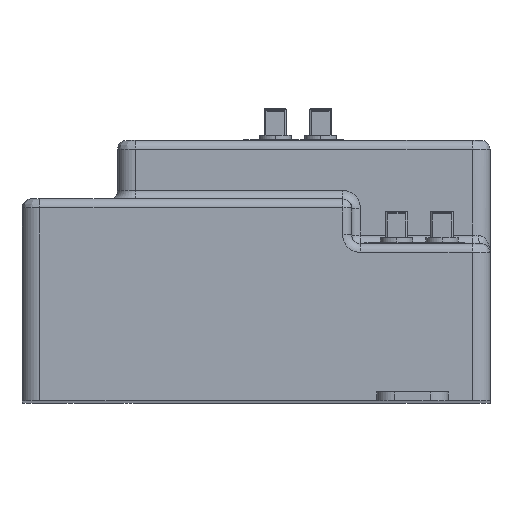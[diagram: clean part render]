
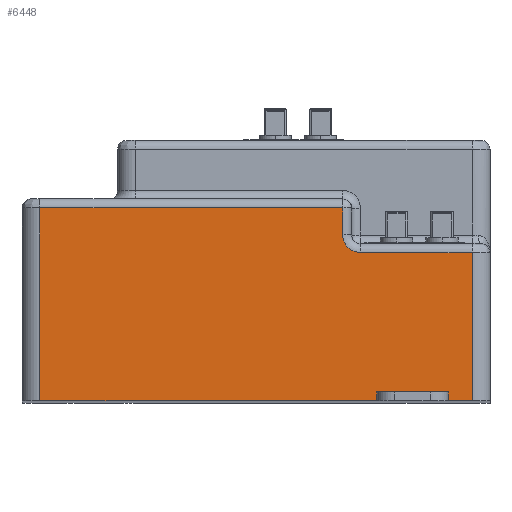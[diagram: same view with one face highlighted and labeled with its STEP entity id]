
A CAD part, top view. The second image highlights one B-rep face of the part: STEP entity #6448.
In plain terms, the highlighted planar face has unit normal (0, 0, 1).
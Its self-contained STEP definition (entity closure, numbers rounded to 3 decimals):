
#1053=FACE_OUTER_BOUND('',#17804,.T.);
#6448=ADVANCED_FACE('',(#1053),#12078,.F.);
#12078=PLANE('',#106638);
#17804=EDGE_LOOP('',(#25285,#25286,#25287,#25288,#25289,#25290,#25291,#25292,
#25293,#25294,#25295,#25296,#25297,#25298,#25299));
#23995=CIRCLE('',#106637,2.);
#25285=ORIENTED_EDGE('',*,*,#64652,.F.);
#25286=ORIENTED_EDGE('',*,*,#64653,.T.);
#25287=ORIENTED_EDGE('',*,*,#64654,.T.);
#25288=ORIENTED_EDGE('',*,*,#64626,.F.);
#25289=ORIENTED_EDGE('',*,*,#64655,.T.);
#25290=ORIENTED_EDGE('',*,*,#64583,.F.);
#25291=ORIENTED_EDGE('',*,*,#64656,.T.);
#25292=ORIENTED_EDGE('',*,*,#64657,.T.);
#25293=ORIENTED_EDGE('',*,*,#64658,.T.);
#25294=ORIENTED_EDGE('',*,*,#64594,.F.);
#25295=ORIENTED_EDGE('',*,*,#64659,.T.);
#25296=ORIENTED_EDGE('',*,*,#64660,.T.);
#25297=ORIENTED_EDGE('',*,*,#64661,.T.);
#25298=ORIENTED_EDGE('',*,*,#64577,.F.);
#25299=ORIENTED_EDGE('',*,*,#64662,.F.);
#55068=VERTEX_POINT('',#140660);
#55069=VERTEX_POINT('',#140662);
#55074=VERTEX_POINT('',#140672);
#55075=VERTEX_POINT('',#140674);
#55084=VERTEX_POINT('',#140693);
#55086=VERTEX_POINT('',#140696);
#55117=VERTEX_POINT('',#140761);
#55118=VERTEX_POINT('',#140762);
#55135=VERTEX_POINT('',#140815);
#55136=VERTEX_POINT('',#140816);
#55137=VERTEX_POINT('',#140818);
#55138=VERTEX_POINT('',#140822);
#55139=VERTEX_POINT('',#140824);
#55140=VERTEX_POINT('',#140827);
#55141=VERTEX_POINT('',#140829);
#64577=EDGE_CURVE('',#55068,#55069,#79494,.T.);
#64583=EDGE_CURVE('',#55074,#55075,#79498,.T.);
#64594=EDGE_CURVE('',#55084,#55086,#79504,.T.);
#64626=EDGE_CURVE('',#55117,#55118,#79529,.T.);
#64652=EDGE_CURVE('',#55135,#55136,#79547,.T.);
#64653=EDGE_CURVE('',#55135,#55137,#23995,.T.);
#64654=EDGE_CURVE('',#55137,#55118,#79548,.T.);
#64655=EDGE_CURVE('',#55117,#55075,#79549,.T.);
#64656=EDGE_CURVE('',#55074,#55138,#79550,.T.);
#64657=EDGE_CURVE('',#55138,#55139,#79551,.T.);
#64658=EDGE_CURVE('',#55139,#55086,#79552,.T.);
#64659=EDGE_CURVE('',#55084,#55140,#79553,.T.);
#64660=EDGE_CURVE('',#55140,#55141,#79554,.T.);
#64661=EDGE_CURVE('',#55141,#55069,#79555,.T.);
#64662=EDGE_CURVE('',#55136,#55068,#79556,.T.);
#79494=LINE('',#140661,#93054);
#79498=LINE('',#140673,#93058);
#79504=LINE('',#140695,#93064);
#79529=LINE('',#140760,#93089);
#79547=LINE('',#140814,#93107);
#79548=LINE('',#140819,#93108);
#79549=LINE('',#140820,#93109);
#79550=LINE('',#140821,#93110);
#79551=LINE('',#140823,#93111);
#79552=LINE('',#140825,#93112);
#79553=LINE('',#140826,#93113);
#79554=LINE('',#140828,#93114);
#79555=LINE('',#140830,#93115);
#79556=LINE('',#140831,#93116);
#93054=VECTOR('',#113461,1.);
#93058=VECTOR('',#113469,1.);
#93064=VECTOR('',#113485,1.);
#93089=VECTOR('',#113528,1.);
#93107=VECTOR('',#113570,1.);
#93108=VECTOR('',#113573,1.);
#93109=VECTOR('',#113574,1.);
#93110=VECTOR('',#113575,1.);
#93111=VECTOR('',#113576,1.);
#93112=VECTOR('',#113577,1.);
#93113=VECTOR('',#113578,1.);
#93114=VECTOR('',#113579,1.);
#93115=VECTOR('',#113580,1.);
#93116=VECTOR('',#113581,1.);
#106637=AXIS2_PLACEMENT_3D('',#140817,#113571,#113572);
#106638=AXIS2_PLACEMENT_3D('',#140832,#113582,#113583);
#113461=DIRECTION('',(-1.,0.,0.));
#113469=DIRECTION('',(-1.,0.,0.));
#113485=DIRECTION('',(-1.,0.,0.));
#113528=DIRECTION('',(1.,0.,0.));
#113570=DIRECTION('',(1.,0.,0.));
#113571=DIRECTION('',(0.,0.,-1.));
#113572=DIRECTION('',(-1.,0.,0.));
#113573=DIRECTION('',(0.,1.,0.));
#113574=DIRECTION('',(0.,-1.,0.));
#113575=DIRECTION('',(0.,1.,0.));
#113576=DIRECTION('',(1.,0.,0.));
#113577=DIRECTION('',(0.,-1.,0.));
#113578=DIRECTION('',(0.,1.,0.));
#113579=DIRECTION('',(1.,0.,0.));
#113580=DIRECTION('',(0.,-1.,0.));
#113581=DIRECTION('',(0.,-1.,0.));
#113582=DIRECTION('',(0.,0.,-1.));
#113583=DIRECTION('',(1.,0.,0.));
#140660=CARTESIAN_POINT('',(327.111,150.642,457.238));
#140661=CARTESIAN_POINT('',(325.911,150.642,457.238));
#140662=CARTESIAN_POINT('',(324.411,150.642,457.238));
#140672=CARTESIAN_POINT('',(316.411,150.642,457.238));
#140673=CARTESIAN_POINT('',(325.911,150.642,457.238));
#140674=CARTESIAN_POINT('',(278.711,150.642,457.238));
#140693=CARTESIAN_POINT('',(322.285,150.642,457.238));
#140695=CARTESIAN_POINT('',(325.911,150.642,457.238));
#140696=CARTESIAN_POINT('',(318.538,150.642,457.238));
#140760=CARTESIAN_POINT('',(327.911,172.242,457.238));
#140761=CARTESIAN_POINT('',(278.711,172.242,457.238));
#140762=CARTESIAN_POINT('',(312.611,172.242,457.238));
#140814=CARTESIAN_POINT('',(279.911,167.242,457.238));
#140815=CARTESIAN_POINT('',(314.611,167.242,457.238));
#140816=CARTESIAN_POINT('',(327.111,167.242,457.238));
#140817=CARTESIAN_POINT('',(314.611,169.242,457.238));
#140818=CARTESIAN_POINT('',(312.611,169.242,457.238));
#140819=CARTESIAN_POINT('',(312.611,172.242,457.238));
#140820=CARTESIAN_POINT('',(278.711,168.242,457.238));
#140821=CARTESIAN_POINT('',(316.411,168.242,457.238));
#140822=CARTESIAN_POINT('',(316.411,151.642,457.238));
#140823=CARTESIAN_POINT('',(327.911,151.642,457.238));
#140824=CARTESIAN_POINT('',(318.538,151.642,457.238));
#140825=CARTESIAN_POINT('',(318.538,150.642,457.238));
#140826=CARTESIAN_POINT('',(322.285,150.642,457.238));
#140827=CARTESIAN_POINT('',(322.285,151.642,457.238));
#140828=CARTESIAN_POINT('',(327.911,151.642,457.238));
#140829=CARTESIAN_POINT('',(324.411,151.642,457.238));
#140830=CARTESIAN_POINT('',(324.411,168.242,457.238));
#140831=CARTESIAN_POINT('',(327.111,167.242,457.238));
#140832=CARTESIAN_POINT('',(327.911,168.242,457.238));
